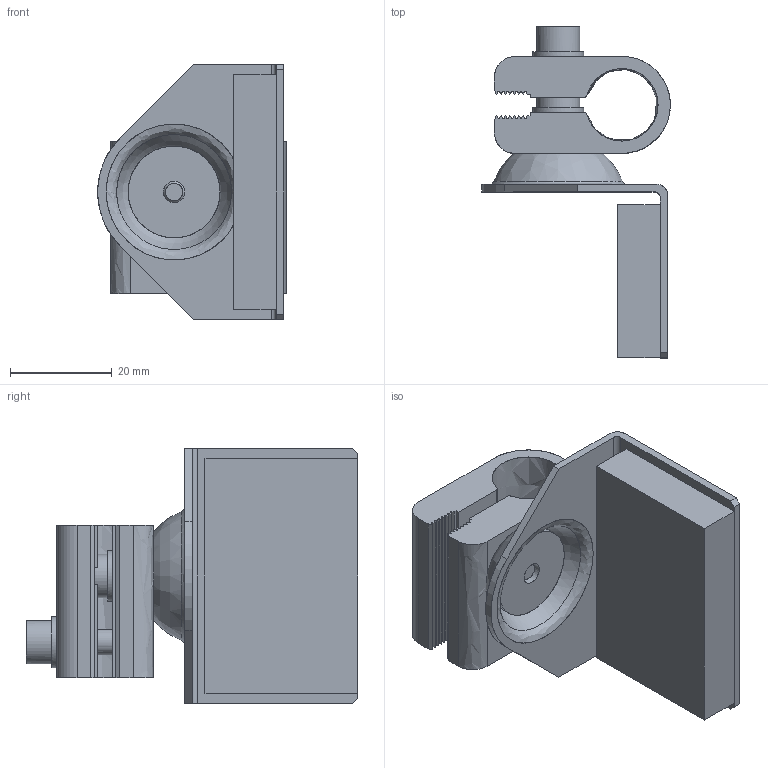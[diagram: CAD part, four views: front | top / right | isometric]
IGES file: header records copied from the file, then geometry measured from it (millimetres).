
Global section: file name: e:\Temp\web3d_btu934m_90.igs; native system: NX V6.0; preprocessor: SIEMENS UGS NX 6.0; date: 20121001.100150; units: millimetre
Bounding box: 37 x 65.1 x 50 mm (x, y, z)
Surface area: 19243.2 mm2 (no closed solid volume)
Topology: 0 solids, 0 shells, 140 faces, 1036 edges, 994 vertices
Faces by surface type: bspline 140
